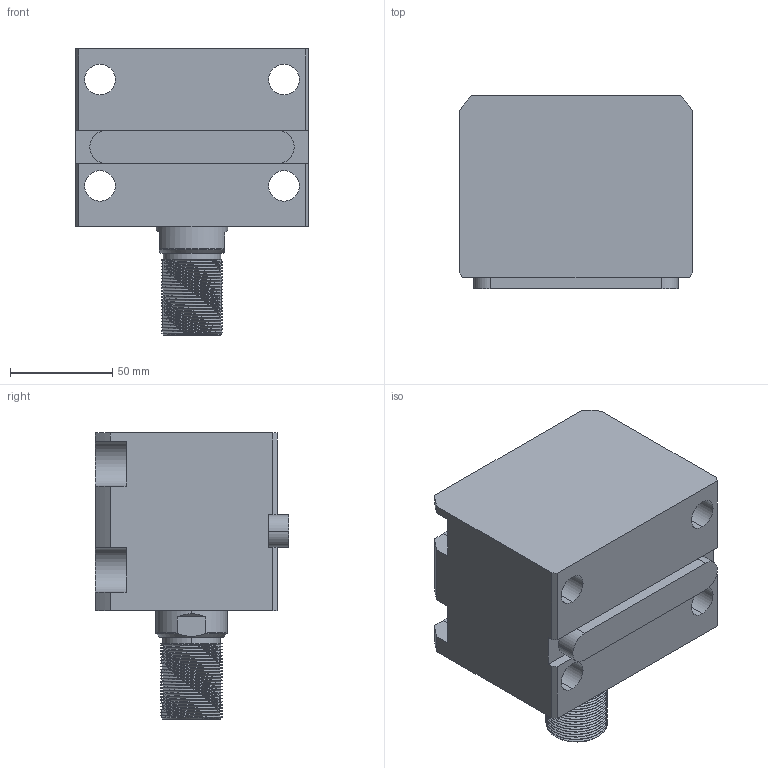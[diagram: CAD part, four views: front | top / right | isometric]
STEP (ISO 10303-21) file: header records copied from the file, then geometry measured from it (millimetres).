
FILE_DESCRIPTION (( 'STEP AP214' ), '1' );
FILE_NAME ('chtb-la63x20w_asm.STEP', '2018-05-17T02:57:13', ( 'Windows' ), ( 'Microsoft' ), 'SwSTEP 2.0', 'SolidWorks 2015', '' );
FILE_SCHEMA (( 'AUTOMOTIVE_DESIGN' ));
Length unit declared in the file: millimetre
Products named in the file (5): CHTB-LA63X20NBT; CHTB-LA63PJ; CHTB63X20WHSG; CHTB-63QG; chtb-la63x20w_asm
Assembly tree (4 placements, depth 2):
  chtb-la63x20w_asm
    CHTB-63QG
    CHTB63X20WHSG
    CHTB-LA63PJ
    CHTB-LA63X20NBT
Bounding box: 114 x 94.5 x 140 mm (x, y, z)
Volume: 799878.3 mm3; surface area: 136045 mm2
Topology: 4 solids, 4 shells, 228 faces, 670 edges, 457 vertices
Faces by surface type: cylinder 147, plane 48, bspline 14, cone 13, torus 6
Entity records: 22769 total; most frequent: CARTESIAN_POINT 17126, ORIENTED_EDGE 1332, DIRECTION 940, EDGE_CURVE 666, VERTEX_POINT 457, AXIS2_PLACEMENT_3D 350, EDGE_LOOP 253, VECTOR 240
